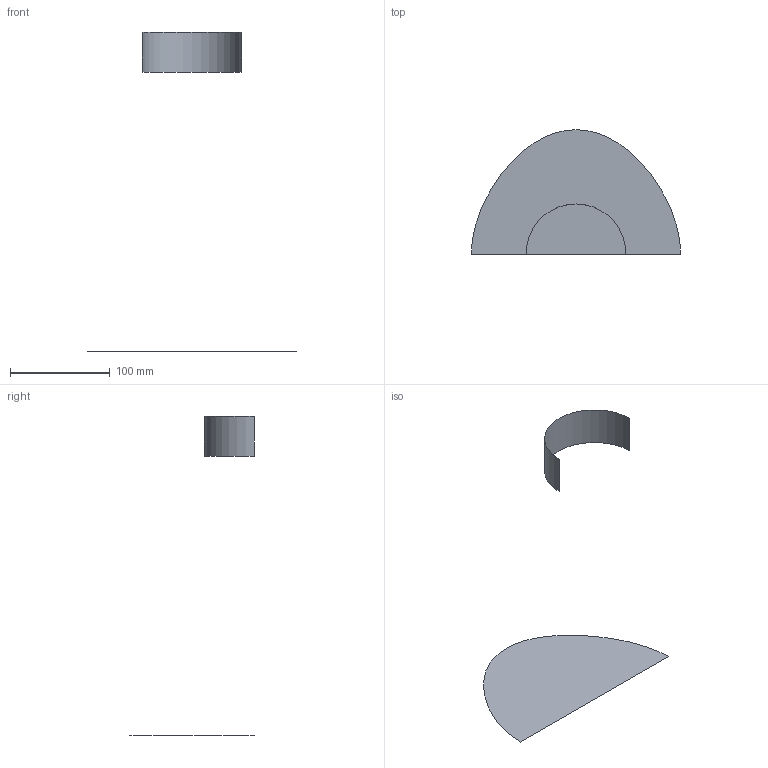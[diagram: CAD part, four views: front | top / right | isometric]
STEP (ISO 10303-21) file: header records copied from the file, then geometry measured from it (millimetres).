
FILE_DESCRIPTION(('CATIA V5 STEP Exchange'),'2;1');
FILE_NAME('C:\_Andres\UNIVERSIDAD\IQS\ASIGNATURAS\DAO\Controles\1617\c1\1original\Homs_Ruano_Ej00-base_v15.stp','2017-02-06T16:27:41+00:00',('none'),('none'),'CATIA Version 5-6 Release 2014 SP1 HF18','CATIA V5 STEP AP203','none');
FILE_SCHEMA(('CONFIG_CONTROL_DESIGN'));
Length unit declared in the file: millimetre
Products named in the file (1): Homs_Ruano_Ej00-base_v15
Bounding box: 210 x 125 x 320 mm (x, y, z)
Surface area: 26055.2 mm2 (no closed solid volume)
Topology: 0 solids, 2 shells, 2 faces, 16 edges, 26 vertices
Faces by surface type: cylinder 1, plane 1
Entity records: 230 total; most frequent: CARTESIAN_POINT 78, DIRECTION 16, COMPOSITE_CURVE_SEGMENT 9, TRIMMED_CURVE 9, AXIS2_PLACEMENT_3D 8, COMPOSITE_CURVE 7, ORIENTED_EDGE 7, EDGE_CURVE 7
